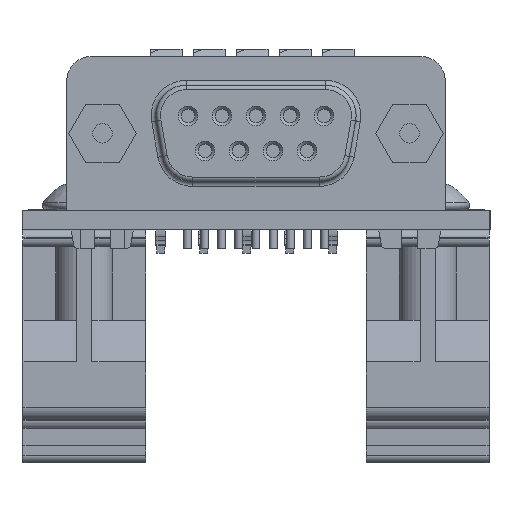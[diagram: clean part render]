
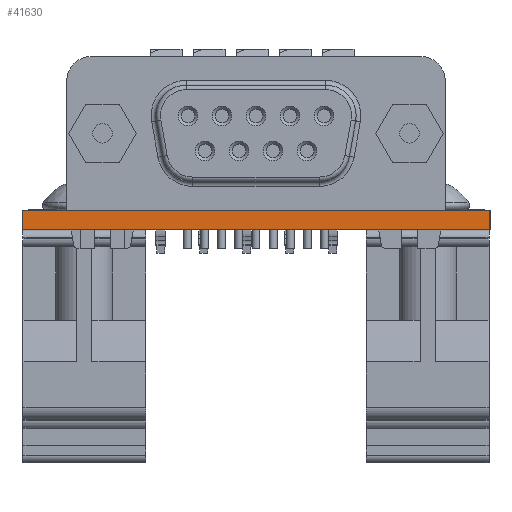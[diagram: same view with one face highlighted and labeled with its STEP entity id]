
A CAD part, left-side view. The second image highlights one B-rep face of the part: STEP entity #41630.
In plain terms, the highlighted planar face has unit normal (-1, 0, 0).
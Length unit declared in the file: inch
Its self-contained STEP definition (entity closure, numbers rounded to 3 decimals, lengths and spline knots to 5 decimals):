
#2856 = VERTEX_POINT ( 'NONE', #3331 ) ;
#3331 = CARTESIAN_POINT ( 'NONE',  ( 23.195, 6.07, 0.0625 ) ) ;
#3468 = LINE ( 'NONE', #17699, #17040 ) ;
#6210 = LINE ( 'NONE', #47655, #20965 ) ;
#6310 = DIRECTION ( 'NONE',  ( 0., 0., -1. ) ) ;
#16885 = LINE ( 'NONE', #101134, #96115 ) ;
#17040 = VECTOR ( 'NONE', #72999, 39.37008 ) ;
#17699 = CARTESIAN_POINT ( 'NONE',  ( 23.195, 0., 0. ) ) ;
#18945 = PLANE ( 'NONE',  #81867 ) ;
#20965 = VECTOR ( 'NONE', #23719, 39.37008 ) ;
#23719 = DIRECTION ( 'NONE',  ( 0., 0., -1. ) ) ;
#31181 = CARTESIAN_POINT ( 'NONE',  ( 23.195, 7.57, 0.0625 ) ) ;
#31815 = ORIENTED_EDGE ( 'NONE', *, *, #54396, .F. ) ;
#32335 = VERTEX_POINT ( 'NONE', #31181 ) ;
#40989 = CARTESIAN_POINT ( 'NONE',  ( 23.195, 6.07, 0. ) ) ;
#41237 = ORIENTED_EDGE ( 'NONE', *, *, #55492, .F. ) ;
#41630 = ADVANCED_FACE ( 'NONE', ( #89558 ), #18945, .T. ) ;
#43935 = VECTOR ( 'NONE', #100426, 39.37008 ) ;
#46430 = LINE ( 'NONE', #52660, #43935 ) ;
#47261 = EDGE_CURVE ( 'NONE', #32335, #60522, #6210, .T. ) ;
#47655 = CARTESIAN_POINT ( 'NONE',  ( 23.195, 7.57, 0.0625 ) ) ;
#52660 = CARTESIAN_POINT ( 'NONE',  ( 23.195, 0., 0.0625 ) ) ;
#54396 = EDGE_CURVE ( 'NONE', #2856, #97291, #16885, .T. ) ;
#55492 = EDGE_CURVE ( 'NONE', #97291, #60522, #3468, .T. ) ;
#59878 = ORIENTED_EDGE ( 'NONE', *, *, #47261, .T. ) ;
#60179 = EDGE_LOOP ( 'NONE', ( #41237, #31815, #61835, #59878 ) ) ;
#60239 = EDGE_CURVE ( 'NONE', #2856, #32335, #46430, .T. ) ;
#60522 = VERTEX_POINT ( 'NONE', #85463 ) ;
#61835 = ORIENTED_EDGE ( 'NONE', *, *, #60239, .T. ) ;
#72999 = DIRECTION ( 'NONE',  ( 0., 1., 0. ) ) ;
#75623 = DIRECTION ( 'NONE',  ( 0., 0., 1. ) ) ;
#81867 = AXIS2_PLACEMENT_3D ( 'NONE', #91600, #90910, #75623 ) ;
#85463 = CARTESIAN_POINT ( 'NONE',  ( 23.195, 7.57, 0. ) ) ;
#89558 = FACE_OUTER_BOUND ( 'NONE', #60179, .T. ) ;
#90910 = DIRECTION ( 'NONE',  ( -1., 0., 0. ) ) ;
#91600 = CARTESIAN_POINT ( 'NONE',  ( 23.195, 0., 0.0625 ) ) ;
#96115 = VECTOR ( 'NONE', #6310, 39.37008 ) ;
#97291 = VERTEX_POINT ( 'NONE', #40989 ) ;
#100426 = DIRECTION ( 'NONE',  ( 0., 1., 0. ) ) ;
#101134 = CARTESIAN_POINT ( 'NONE',  ( 23.195, 6.07, 0.0625 ) ) ;
